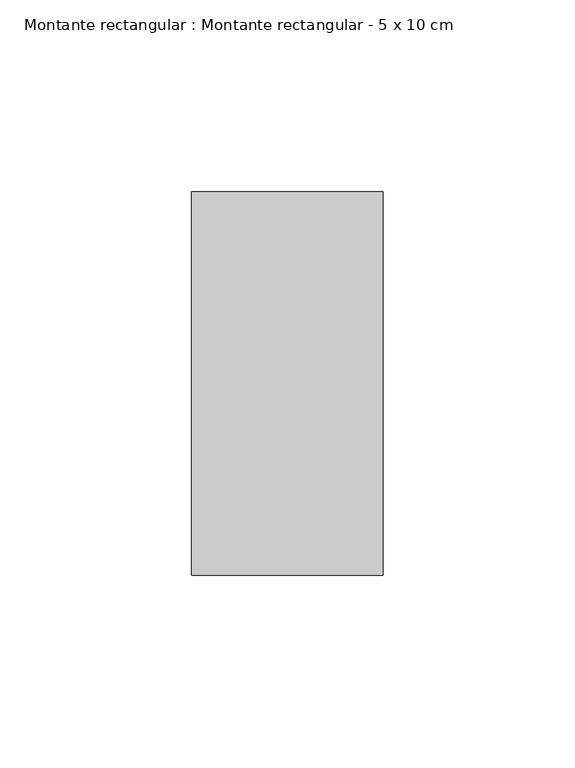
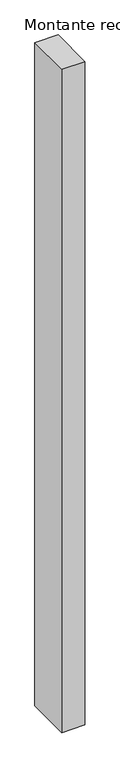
"""IFC4 building model written with IfcOpenShell, lengths in millimetres: member geometry, Montante rectangular : Montante rectangular - 5 x 10 cm."""

import ifcopenshell
import ifcopenshell.guid

model = None  # the IFC model being written
_history = None  # IfcOwnerHistory: only IFC2X3 demands one
_inside = {}  # id of a spatial element -> (the spatial element, [elements in it])
_under = {}  # id of a project, library or spatial element -> (it, [spatial elements below it])
_declared = {}  # id of a project -> (the project, [libraries it declares])
_typed = {}  # id of a type object -> (the type object, [elements of that type])
_made_of = {}  # id of a material, layer set ... -> (it, [elements and type objects made of it])


def new_model(schema):
    """Start an empty IFC model of exactly this schema.

    Asked for "IFC4X3", IfcOpenShell would pick the latest addendum, in which some entities
    have other attributes; the version numbers below select the first issue.
    IFC2X3 requires an IfcOwnerHistory on every rooted entity: one is made here for all.
    """
    global model, _history
    if schema == "IFC4X3":
        model = ifcopenshell.file(schema_version=(4, 3, 0, 0))
    else:
        model = ifcopenshell.file(schema=schema)
    _inside.clear()
    _under.clear()
    _declared.clear()
    _typed.clear()
    _made_of.clear()
    _history = None
    if model.schema == "IFC2X3":
        org = make("IfcOrganization", Name="unknown")
        user = make(
            "IfcPersonAndOrganization",
            ThePerson=make("IfcPerson", FamilyName="unknown"),
            TheOrganization=org,
        )
        app = make(
            "IfcApplication",
            ApplicationDeveloper=org,
            Version="unknown",
            ApplicationFullName="unknown",
            ApplicationIdentifier="unknown",
        )
        _history = make(
            "IfcOwnerHistory",
            OwningUser=user,
            OwningApplication=app,
            ChangeAction="ADDED",
            CreationDate=0,
        )
    return model


def make(cls, **values):
    """One entity of the class cls with the attributes given. An attribute that is None is left unset."""
    return model.create_entity(
        cls, **{name: value for name, value in values.items() if value is not None}
    )


def rooted(cls, **values):
    """An entity with a GlobalId (a new one), such as an element, a storey or a relation."""
    return make(cls, GlobalId=ifcopenshell.guid.new(), OwnerHistory=_history, **values)


def si_unit(unit_type, name, prefix=None):
    """IfcSIUnit, for example si_unit("LENGTHUNIT", "METRE", prefix="MILLI")."""
    return make("IfcSIUnit", UnitType=unit_type, Prefix=prefix, Name=name)


def assignment(units):
    """IfcUnitAssignment: the units of a project."""
    return None if units is None else make("IfcUnitAssignment", Units=units)


def point(xyz):
    """IfcCartesianPoint."""
    return None if xyz is None else make("IfcCartesianPoint", Coordinates=xyz)


def direction(xyz):
    """IfcDirection."""
    return None if xyz is None else make("IfcDirection", DirectionRatios=xyz)


def frame(location, z_axis=None, x_axis=None):
    """IfcAxis2Placement3D, a coordinate frame: its origin and axes. An axis left out is left unset."""
    return make(
        "IfcAxis2Placement3D",
        Location=point(location),
        Axis=direction(z_axis),
        RefDirection=direction(x_axis),
    )


def origin():
    """The frame at (0, 0, 0) with its axes left unset."""
    return frame((0.0, 0.0, 0.0))


def place(relative_to, where):
    """IfcLocalPlacement: puts the frame where relative to a parent placement (None: the world)."""
    return make(
        "IfcLocalPlacement", PlacementRelTo=relative_to, RelativePlacement=where
    )


def context(
    kind, dimensions, precision=None, world=None, true_north=None, identifier=None
):
    """IfcGeometricRepresentationContext, for example the 3D "Model" context."""
    return make(
        "IfcGeometricRepresentationContext",
        ContextIdentifier=identifier,
        ContextType=kind,
        CoordinateSpaceDimension=dimensions,
        Precision=precision,
        WorldCoordinateSystem=world,
        TrueNorth=true_north,
    )


def project(units=None, contexts=None):
    """IfcProject with its units and contexts."""
    return rooted(
        "IfcProject",
        Name="project",
        RepresentationContexts=contexts,
        UnitsInContext=assignment(units),
    )


def spatial(cls, under=None, at=None, **own):
    """A site, building, storey or space (cls), placed at a placement, below another one or the project."""
    s = rooted(cls, ObjectPlacement=at, **own)
    if under is not None:
        _under.setdefault(under.id(), (under, []))[1].append(s)
    return s


def polyline(points):
    """IfcPolyline through the points."""
    return make("IfcPolyline", Points=[point(p) for p in points])


def outline(outer, holes=None, kind="AREA"):
    """IfcArbitraryClosedProfileDef: a profile drawn as a closed curve; with holes, ...WithVoids."""
    if holes is None:
        return make("IfcArbitraryClosedProfileDef", ProfileType=kind, OuterCurve=outer)
    return make(
        "IfcArbitraryProfileDefWithVoids",
        ProfileType=kind,
        OuterCurve=outer,
        InnerCurves=holes,
    )


def extrude(swept, where, along, depth):
    """IfcExtrudedAreaSolid: the profile swept, set in the frame where, extruded along a direction by depth."""
    return make(
        "IfcExtrudedAreaSolid",
        SweptArea=swept,
        Position=where,
        ExtrudedDirection=direction(along),
        Depth=depth,
    )


def shape(context_of_items, identifier, shape_type, items):
    """IfcShapeRepresentation: the items that make up one representation, for example the "Body"."""
    return make(
        "IfcShapeRepresentation",
        ContextOfItems=context_of_items,
        RepresentationIdentifier=identifier,
        RepresentationType=shape_type,
        Items=items,
    )


def source(mapping_origin, context_of_items, identifier, shape_type, items):
    """IfcRepresentationMap: a shape defined once, which mapped items show again and again."""
    return make(
        "IfcRepresentationMap",
        MappingOrigin=mapping_origin,
        MappedRepresentation=shape(context_of_items, identifier, shape_type, items),
    )


def transform(
    local_origin,
    x_axis=None,
    y_axis=None,
    z_axis=None,
    scale=None,
    scale2=None,
    scale3=None,
    uniform=True,
):
    """IfcCartesianTransformationOperator3D, or its non-uniform kind. x_axis, y_axis, z_axis: its Axis1, 2, 3."""
    if uniform:
        return make(
            "IfcCartesianTransformationOperator3D",
            Axis1=direction(x_axis),
            Axis2=direction(y_axis),
            LocalOrigin=point(local_origin),
            Scale=scale,
            Axis3=direction(z_axis),
        )
    return make(
        "IfcCartesianTransformationOperator3DnonUniform",
        Axis1=direction(x_axis),
        Axis2=direction(y_axis),
        LocalOrigin=point(local_origin),
        Scale=scale,
        Axis3=direction(z_axis),
        Scale2=scale2,
        Scale3=scale3,
    )


def mapped(mapping_source, mapping_target):
    """IfcMappedItem: shows the shape of a source again, moved by a transform."""
    return make(
        "IfcMappedItem", MappingSource=mapping_source, MappingTarget=mapping_target
    )


def made_of(thing, what):
    """Note that an element or type object is made of a material, layer set ...; save() writes the relation."""
    if what is not None:
        _made_of.setdefault(what.id(), (what, []))[1].append(thing)
    return thing


def element(
    cls,
    number,
    at=None,
    inside=None,
    cuts=None,
    type_object=None,
    material=None,
    context=None,
    identifier="Body",
    shape_type=None,
    held_by="IfcProductDefinitionShape",
    body=None,
    shapes=None,
    **own,
):
    """One element of the class cls, such as IfcWall. Its Tag is "e" and its number.

    at: its placement. inside: the storey or other place that contains it. cuts: it is an
    opening in that element (IfcRelVoidsElement). A single representation is given by context,
    identifier, shape_type and body (its items); several are given by shapes. held_by: the class
    of the entity that holds the representations. save() writes the other relations.
    """
    e = rooted(cls, Tag="e%d" % number, ObjectPlacement=at, **own)
    if body is not None:
        shapes = [shape(context, identifier, shape_type, body)]
    if shapes is not None:
        e.Representation = make(held_by, Representations=shapes)
    if inside is not None:
        _inside.setdefault(inside.id(), (inside, []))[1].append(e)
    if cuts is not None:
        rooted(
            "IfcRelVoidsElement", RelatingBuildingElement=cuts, RelatedOpeningElement=e
        )
    if type_object is not None:
        _typed.setdefault(type_object.id(), (type_object, []))[1].append(e)
    return made_of(e, material)


def aggregate(whole, parts):
    """IfcRelAggregates: a whole, such as a stair, and the parts it consists of."""
    return rooted("IfcRelAggregates", RelatingObject=whole, RelatedObjects=parts)


def save(model, path):
    """Write the relations noted so far, then the file.

    IfcRelAggregates (storeys below a building ...), IfcRelContainedInSpatialStructure (elements
    in a storey), IfcRelDefinesByType, IfcRelAssociatesMaterial and IfcRelDeclares: one each for
    every whole, place, type object, material and project.
    """
    for whole, parts in _under.values():
        aggregate(whole, parts)
    for where, things in _inside.values():
        rooted(
            "IfcRelContainedInSpatialStructure",
            RelatedElements=things,
            RelatingStructure=where,
        )
    for kind, things in _typed.values():
        rooted("IfcRelDefinesByType", RelatedObjects=things, RelatingType=kind)
    for what, things in _made_of.values():
        rooted("IfcRelAssociatesMaterial", RelatedObjects=things, RelatingMaterial=what)
    for by, libraries in _declared.values():
        rooted("IfcRelDeclares", RelatingContext=by, RelatedDefinitions=libraries)
    model.write(path)


def montante_rectangular_montante_rectangular_5_x_10_cm_fdc66bfb(model_context):
    return source(origin(), model_context, "Body", "SweptSolid", [
        extrude(outline(polyline([(0.0, -50.0), (-50.0, -50.0), (-50.0, 50.0), (0.0, 50.0), (0.0, -50.0)])), frame((0.0, 0.0, -1510.0), z_axis=(0.0, 0.0, 1.0), x_axis=(1.0, 0.0, 0.0)), (0.0, 0.0, 1.0), 1510.0),
    ])


if __name__ == "__main__":
    model = new_model("IFC4")
    model_context = context("Model", 3, world=origin())
    ifc_project = project(units=[si_unit("LENGTHUNIT", "METRE", prefix="MILLI")], contexts=[model_context])
    site = spatial("IfcSite", under=ifc_project)
    building = spatial("IfcBuilding", under=site)
    placement = place(None, origin())
    montante_rectangular_montante_rectangular_5_x_10_cm_shape = montante_rectangular_montante_rectangular_5_x_10_cm_fdc66bfb(model_context)
    element("IfcMember", 1, ObjectType="Montante rectangular : Montante rectangular - 5 x 10 cm", at=placement, inside=building, context=model_context, shape_type="MappedRepresentation", body=[
        mapped(montante_rectangular_montante_rectangular_5_x_10_cm_shape, transform((0.0, 0.0, 0.0), x_axis=(1.0, 0.0, 0.0), y_axis=(0.0, 1.0, 0.0), z_axis=(0.0, 0.0, 1.0))),
    ])
    save(model, "model.ifc")
